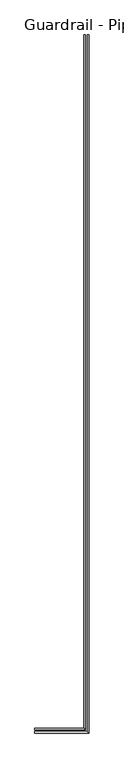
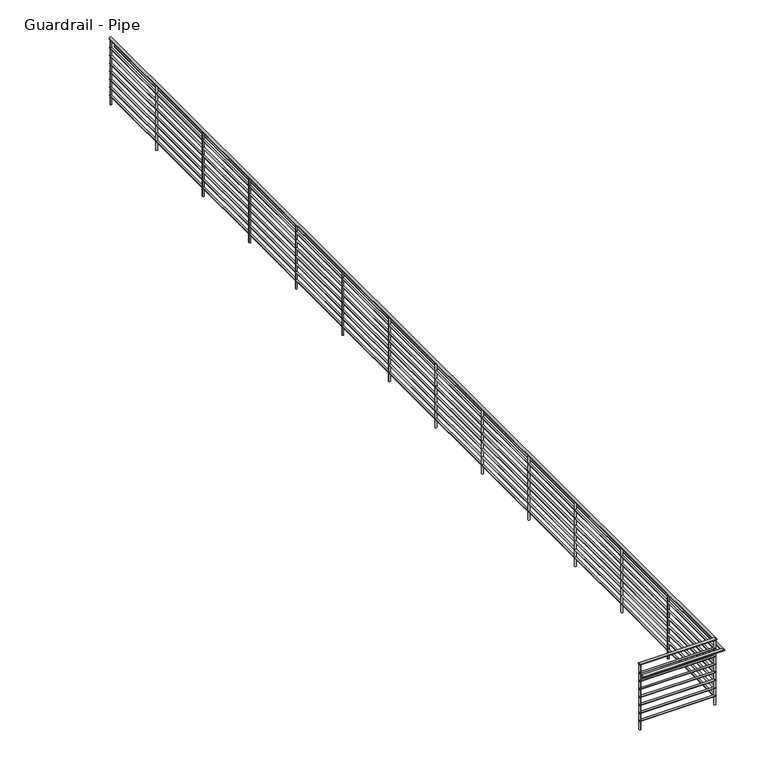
"""IFC4 building model written with IfcOpenShell, lengths in millimetres: railing geometry, Guardrail - Pipe."""

from ifc_helpers import new_model, si_unit, point, frame, frame_2d, origin, place, context, project, spatial, circle_curve, ellipse_curve, trimmed, segment, composite_curve, outline, extrude, source, transform, mapped, element, save
from ifc_brep_helpers import plane_surface, cylinder_surface, advanced_brep


def guardrail_pipe_0039a5d5(model_context):
    return source(origin(), model_context, "Body", "SolidModel", [
        advanced_brep(
        [(2892.6060388, 9152.359643, 8972.55), (2854.5060388, 9152.359643, 8972.55), (2892.6060388, -6703.590357, 8972.55), (2854.5060388, -6665.490357, 8972.55), (1730.5560388, -6703.590357, 8972.55), (1730.5560388, -6665.490357, 8972.55)],
        [
            (0, 1, circle_curve(frame((2873.5560388, 9152.359643, 8972.55), z_axis=(0.0, 1.0, 0.0), x_axis=(-1.0, 0.0, 0.0)), 19.05)),
            (1, 0, circle_curve(frame((2873.5560388, 9152.359643, 8972.55), z_axis=(0.0, 1.0, 0.0), x_axis=(-1.0, 0.0, 0.0)), 19.05)),
            (0, 2),
            (2, 3, ellipse_curve(frame((2873.5560388, -6684.540357, 8972.55), z_axis=(0.7071067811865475, 0.7071067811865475, 0.0), x_axis=(-0.7071067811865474, 0.7071067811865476, 0.0)), 26.9407684, 19.05)),
            (3, 1),
            (3, 2, ellipse_curve(frame((2873.5560388, -6684.540357, 8972.55), z_axis=(0.7071067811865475, 0.7071067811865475, 0.0), x_axis=(-0.7071067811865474, 0.7071067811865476, 0.0)), 26.9407684, 19.05)),
            (4, 5, circle_curve(frame((1730.5560388, -6684.540357, 8972.55), z_axis=(-1.0, 0.0, 0.0), x_axis=(0.0, 1.0, 0.0)), 19.05)),
            (5, 4, circle_curve(frame((1730.5560388, -6684.540357, 8972.55), z_axis=(-1.0, 0.0, 0.0), x_axis=(0.0, 1.0, 0.0)), 19.05)),
            (2, 4),
            (5, 3),
        ],
        [
            plane_surface(frame((2873.5560388, 9152.359643, 8991.6), z_axis=(0.0, 1.0, 0.0), x_axis=(0.0, 0.0, -1.0))),
            cylinder_surface(frame((2873.5560388, 9152.359643, 8972.55), z_axis=(0.0, 1.0, 0.0), x_axis=(-1.0, 0.0, 0.0)), 19.05),
            plane_surface(frame((1730.5560388, -6684.540357, 8991.6), z_axis=(-1.0, 0.0, 0.0), x_axis=(0.0, -1.0, 0.0))),
            cylinder_surface(frame((2873.5560388, -6684.540357, 8972.55), z_axis=(1.0, 0.0, 0.0), x_axis=(0.0, 1.0, 0.0)), 19.05),
        ],
        [
            (0, [[1, 2]]),
            (1, [[-1, 3, 4, 5]]),
            (1, [[-2, -5, 6, -3]]),
            (2, [[7, 8]]),
            (3, [[-4, 9, -8, 10]]),
            (3, [[-6, -10, -7, -9]]),
        ],
    ),
        advanced_brep(
        [(2886.2560388, 9152.359643, 8826.5), (2860.8560388, 9152.359643, 8826.5), (2886.2560388, -6697.240357, 8826.5), (2860.8560388, -6671.840357, 8826.5), (1730.5560388, -6697.240357, 8826.5), (1730.5560388, -6671.840357, 8826.5)],
        [
            (0, 1, circle_curve(frame((2873.5560388, 9152.359643, 8826.5), z_axis=(0.0, 1.0, 0.0), x_axis=(-1.0, 0.0, 0.0)), 12.7)),
            (1, 0, circle_curve(frame((2873.5560388, 9152.359643, 8826.5), z_axis=(0.0, 1.0, 0.0), x_axis=(-1.0, 0.0, 0.0)), 12.7)),
            (0, 2),
            (2, 3, ellipse_curve(frame((2873.5560388, -6684.540357, 8826.5), z_axis=(0.7071067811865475, 0.7071067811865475, 0.0), x_axis=(-0.7071067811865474, 0.7071067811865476, 0.0)), 17.9605122, 12.7)),
            (3, 1),
            (3, 2, ellipse_curve(frame((2873.5560388, -6684.540357, 8826.5), z_axis=(0.7071067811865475, 0.7071067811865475, 0.0), x_axis=(-0.7071067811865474, 0.7071067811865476, 0.0)), 17.9605122, 12.7)),
            (4, 5, circle_curve(frame((1730.5560388, -6684.540357, 8826.5), z_axis=(-1.0, 0.0, 0.0), x_axis=(0.0, 1.0, 0.0)), 12.7)),
            (5, 4, circle_curve(frame((1730.5560388, -6684.540357, 8826.5), z_axis=(-1.0, 0.0, 0.0), x_axis=(0.0, 1.0, 0.0)), 12.7)),
            (2, 4),
            (5, 3),
        ],
        [
            plane_surface(frame((2873.5560388, 9152.359643, 8839.2), z_axis=(0.0, 1.0, 0.0), x_axis=(0.0, 0.0, -1.0))),
            cylinder_surface(frame((2873.5560388, 9152.359643, 8826.5), z_axis=(0.0, 1.0, 0.0), x_axis=(-1.0, 0.0, 0.0)), 12.7),
            plane_surface(frame((1730.5560388, -6684.540357, 8839.2), z_axis=(-1.0, 0.0, 0.0), x_axis=(0.0, -1.0, 0.0))),
            cylinder_surface(frame((2873.5560388, -6684.540357, 8826.5), z_axis=(1.0, 0.0, 0.0), x_axis=(0.0, 1.0, 0.0)), 12.7),
        ],
        [
            (0, [[1, 2]]),
            (1, [[-1, 3, 4, 5]]),
            (1, [[-2, -5, 6, -3]]),
            (2, [[7, 8]]),
            (3, [[-4, 9, -8, 10]]),
            (3, [[-6, -10, -7, -9]]),
        ],
    ),
        advanced_brep(
        [(2968.8060388, 9152.359643, 8820.15), (2930.7060388, 9152.359643, 8820.15), (2968.8060388, -6779.790357, 8820.15), (2930.7060388, -6741.690357, 8820.15), (1730.5560388, -6779.790357, 8820.15), (1730.5560388, -6741.690357, 8820.15)],
        [
            (0, 1, circle_curve(frame((2949.7560388, 9152.359643, 8820.15), z_axis=(0.0, 1.0, 0.0), x_axis=(-1.0, 0.0, 0.0)), 19.05)),
            (1, 0, circle_curve(frame((2949.7560388, 9152.359643, 8820.15), z_axis=(0.0, 1.0, 0.0), x_axis=(-1.0, 0.0, 0.0)), 19.05)),
            (0, 2),
            (2, 3, ellipse_curve(frame((2949.7560388, -6760.740357, 8820.15), z_axis=(0.7071067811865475, 0.7071067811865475, 0.0), x_axis=(-0.7071067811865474, 0.7071067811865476, 0.0)), 26.9407684, 19.05)),
            (3, 1),
            (3, 2, ellipse_curve(frame((2949.7560388, -6760.740357, 8820.15), z_axis=(0.7071067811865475, 0.7071067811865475, 0.0), x_axis=(-0.7071067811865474, 0.7071067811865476, 0.0)), 26.9407684, 19.05)),
            (4, 5, circle_curve(frame((1730.5560388, -6760.740357, 8820.15), z_axis=(-1.0, 0.0, 0.0), x_axis=(0.0, 1.0, 0.0)), 19.05)),
            (5, 4, circle_curve(frame((1730.5560388, -6760.740357, 8820.15), z_axis=(-1.0, 0.0, 0.0), x_axis=(0.0, 1.0, 0.0)), 19.05)),
            (2, 4),
            (5, 3),
        ],
        [
            plane_surface(frame((2949.7560388, 9152.359643, 8839.2), z_axis=(0.0, 1.0, 0.0), x_axis=(0.0, 0.0, -1.0))),
            cylinder_surface(frame((2949.7560388, 9152.359643, 8820.15), z_axis=(0.0, 1.0, 0.0), x_axis=(-1.0, 0.0, 0.0)), 19.05),
            plane_surface(frame((1730.5560388, -6760.740357, 8839.2), z_axis=(-1.0, 0.0, 0.0), x_axis=(0.0, -1.0, 0.0))),
            cylinder_surface(frame((2949.7560388, -6760.740357, 8820.15), z_axis=(1.0, 0.0, 0.0), x_axis=(0.0, 1.0, 0.0)), 19.05),
        ],
        [
            (0, [[1, 2]]),
            (1, [[-1, 3, 4, 5]]),
            (1, [[-2, -5, 6, -3]]),
            (2, [[7, 8]]),
            (3, [[-4, 9, -8, 10]]),
            (3, [[-6, -10, -7, -9]]),
        ],
    ),
        advanced_brep(
        [(2886.2560388, 9152.359643, 8699.5), (2860.8560388, 9152.359643, 8699.5), (2886.2560388, -6697.240357, 8699.5), (2860.8560388, -6671.840357, 8699.5), (1730.5560388, -6697.240357, 8699.5), (1730.5560388, -6671.840357, 8699.5)],
        [
            (0, 1, circle_curve(frame((2873.5560388, 9152.359643, 8699.5), z_axis=(0.0, 1.0, 0.0), x_axis=(-1.0, 0.0, 0.0)), 12.7)),
            (1, 0, circle_curve(frame((2873.5560388, 9152.359643, 8699.5), z_axis=(0.0, 1.0, 0.0), x_axis=(-1.0, 0.0, 0.0)), 12.7)),
            (0, 2),
            (2, 3, ellipse_curve(frame((2873.5560388, -6684.540357, 8699.5), z_axis=(0.7071067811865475, 0.7071067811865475, 0.0), x_axis=(-0.7071067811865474, 0.7071067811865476, 0.0)), 17.9605122, 12.7)),
            (3, 1),
            (3, 2, ellipse_curve(frame((2873.5560388, -6684.540357, 8699.5), z_axis=(0.7071067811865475, 0.7071067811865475, 0.0), x_axis=(-0.7071067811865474, 0.7071067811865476, 0.0)), 17.9605122, 12.7)),
            (4, 5, circle_curve(frame((1730.5560388, -6684.540357, 8699.5), z_axis=(-1.0, 0.0, 0.0), x_axis=(0.0, 1.0, 0.0)), 12.7)),
            (5, 4, circle_curve(frame((1730.5560388, -6684.540357, 8699.5), z_axis=(-1.0, 0.0, 0.0), x_axis=(0.0, 1.0, 0.0)), 12.7)),
            (2, 4),
            (5, 3),
        ],
        [
            plane_surface(frame((2873.5560388, 9152.359643, 8712.2), z_axis=(0.0, 1.0, 0.0), x_axis=(0.0, 0.0, -1.0))),
            cylinder_surface(frame((2873.5560388, 9152.359643, 8699.5), z_axis=(0.0, 1.0, 0.0), x_axis=(-1.0, 0.0, 0.0)), 12.7),
            plane_surface(frame((1730.5560388, -6684.540357, 8712.2), z_axis=(-1.0, 0.0, 0.0), x_axis=(0.0, -1.0, 0.0))),
            cylinder_surface(frame((2873.5560388, -6684.540357, 8699.5), z_axis=(1.0, 0.0, 0.0), x_axis=(0.0, 1.0, 0.0)), 12.7),
        ],
        [
            (0, [[1, 2]]),
            (1, [[-1, 3, 4, 5]]),
            (1, [[-2, -5, 6, -3]]),
            (2, [[7, 8]]),
            (3, [[-4, 9, -8, 10]]),
            (3, [[-6, -10, -7, -9]]),
        ],
    ),
        advanced_brep(
        [(2886.2560388, 9152.359643, 8572.5), (2860.8560388, 9152.359643, 8572.5), (2886.2560388, -6697.240357, 8572.5), (2860.8560388, -6671.840357, 8572.5), (1730.5560388, -6697.240357, 8572.5), (1730.5560388, -6671.840357, 8572.5)],
        [
            (0, 1, circle_curve(frame((2873.5560388, 9152.359643, 8572.5), z_axis=(0.0, 1.0, 0.0), x_axis=(-1.0, 0.0, 0.0)), 12.7)),
            (1, 0, circle_curve(frame((2873.5560388, 9152.359643, 8572.5), z_axis=(0.0, 1.0, 0.0), x_axis=(-1.0, 0.0, 0.0)), 12.7)),
            (0, 2),
            (2, 3, ellipse_curve(frame((2873.5560388, -6684.540357, 8572.5), z_axis=(0.7071067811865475, 0.7071067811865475, 0.0), x_axis=(-0.7071067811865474, 0.7071067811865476, 0.0)), 17.9605122, 12.7)),
            (3, 1),
            (3, 2, ellipse_curve(frame((2873.5560388, -6684.540357, 8572.5), z_axis=(0.7071067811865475, 0.7071067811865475, 0.0), x_axis=(-0.7071067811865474, 0.7071067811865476, 0.0)), 17.9605122, 12.7)),
            (4, 5, circle_curve(frame((1730.5560388, -6684.540357, 8572.5), z_axis=(-1.0, 0.0, 0.0), x_axis=(0.0, 1.0, 0.0)), 12.7)),
            (5, 4, circle_curve(frame((1730.5560388, -6684.540357, 8572.5), z_axis=(-1.0, 0.0, 0.0), x_axis=(0.0, 1.0, 0.0)), 12.7)),
            (2, 4),
            (5, 3),
        ],
        [
            plane_surface(frame((2873.5560388, 9152.359643, 8585.2), z_axis=(0.0, 1.0, 0.0), x_axis=(0.0, 0.0, -1.0))),
            cylinder_surface(frame((2873.5560388, 9152.359643, 8572.5), z_axis=(0.0, 1.0, 0.0), x_axis=(-1.0, 0.0, 0.0)), 12.7),
            plane_surface(frame((1730.5560388, -6684.540357, 8585.2), z_axis=(-1.0, 0.0, 0.0), x_axis=(0.0, -1.0, 0.0))),
            cylinder_surface(frame((2873.5560388, -6684.540357, 8572.5), z_axis=(1.0, 0.0, 0.0), x_axis=(0.0, 1.0, 0.0)), 12.7),
        ],
        [
            (0, [[1, 2]]),
            (1, [[-1, 3, 4, 5]]),
            (1, [[-2, -5, 6, -3]]),
            (2, [[7, 8]]),
            (3, [[-4, 9, -8, 10]]),
            (3, [[-6, -10, -7, -9]]),
        ],
    ),
        advanced_brep(
        [(2886.2560388, 9152.359643, 8445.5), (2860.8560388, 9152.359643, 8445.5), (2886.2560388, -6697.240357, 8445.5), (2860.8560388, -6671.840357, 8445.5), (1730.5560388, -6697.240357, 8445.5), (1730.5560388, -6671.840357, 8445.5)],
        [
            (0, 1, circle_curve(frame((2873.5560388, 9152.359643, 8445.5), z_axis=(0.0, 1.0, 0.0), x_axis=(-1.0, 0.0, 0.0)), 12.7)),
            (1, 0, circle_curve(frame((2873.5560388, 9152.359643, 8445.5), z_axis=(0.0, 1.0, 0.0), x_axis=(-1.0, 0.0, 0.0)), 12.7)),
            (0, 2),
            (2, 3, ellipse_curve(frame((2873.5560388, -6684.540357, 8445.5), z_axis=(0.7071067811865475, 0.7071067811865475, 0.0), x_axis=(-0.7071067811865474, 0.7071067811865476, 0.0)), 17.9605122, 12.7)),
            (3, 1),
            (3, 2, ellipse_curve(frame((2873.5560388, -6684.540357, 8445.5), z_axis=(0.7071067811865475, 0.7071067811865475, 0.0), x_axis=(-0.7071067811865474, 0.7071067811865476, 0.0)), 17.9605122, 12.7)),
            (4, 5, circle_curve(frame((1730.5560388, -6684.540357, 8445.5), z_axis=(-1.0, 0.0, 0.0), x_axis=(0.0, 1.0, 0.0)), 12.7)),
            (5, 4, circle_curve(frame((1730.5560388, -6684.540357, 8445.5), z_axis=(-1.0, 0.0, 0.0), x_axis=(0.0, 1.0, 0.0)), 12.7)),
            (2, 4),
            (5, 3),
        ],
        [
            plane_surface(frame((2873.5560388, 9152.359643, 8458.2), z_axis=(0.0, 1.0, 0.0), x_axis=(0.0, 0.0, -1.0))),
            cylinder_surface(frame((2873.5560388, 9152.359643, 8445.5), z_axis=(0.0, 1.0, 0.0), x_axis=(-1.0, 0.0, 0.0)), 12.7),
            plane_surface(frame((1730.5560388, -6684.540357, 8458.2), z_axis=(-1.0, 0.0, 0.0), x_axis=(0.0, -1.0, 0.0))),
            cylinder_surface(frame((2873.5560388, -6684.540357, 8445.5), z_axis=(1.0, 0.0, 0.0), x_axis=(0.0, 1.0, 0.0)), 12.7),
        ],
        [
            (0, [[1, 2]]),
            (1, [[-1, 3, 4, 5]]),
            (1, [[-2, -5, 6, -3]]),
            (2, [[7, 8]]),
            (3, [[-4, 9, -8, 10]]),
            (3, [[-6, -10, -7, -9]]),
        ],
    ),
        advanced_brep(
        [(2886.2560388, 9152.359643, 8318.5), (2860.8560388, 9152.359643, 8318.5), (2886.2560388, -6697.240357, 8318.5), (2860.8560388, -6671.840357, 8318.5), (1730.5560388, -6697.240357, 8318.5), (1730.5560388, -6671.840357, 8318.5)],
        [
            (0, 1, circle_curve(frame((2873.5560388, 9152.359643, 8318.5), z_axis=(0.0, 1.0, 0.0), x_axis=(-1.0, 0.0, 0.0)), 12.7)),
            (1, 0, circle_curve(frame((2873.5560388, 9152.359643, 8318.5), z_axis=(0.0, 1.0, 0.0), x_axis=(-1.0, 0.0, 0.0)), 12.7)),
            (0, 2),
            (2, 3, ellipse_curve(frame((2873.5560388, -6684.540357, 8318.5), z_axis=(0.7071067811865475, 0.7071067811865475, 0.0), x_axis=(-0.7071067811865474, 0.7071067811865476, 0.0)), 17.9605122, 12.7)),
            (3, 1),
            (3, 2, ellipse_curve(frame((2873.5560388, -6684.540357, 8318.5), z_axis=(0.7071067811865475, 0.7071067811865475, 0.0), x_axis=(-0.7071067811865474, 0.7071067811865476, 0.0)), 17.9605122, 12.7)),
            (4, 5, circle_curve(frame((1730.5560388, -6684.540357, 8318.5), z_axis=(-1.0, 0.0, 0.0), x_axis=(0.0, 1.0, 0.0)), 12.7)),
            (5, 4, circle_curve(frame((1730.5560388, -6684.540357, 8318.5), z_axis=(-1.0, 0.0, 0.0), x_axis=(0.0, 1.0, 0.0)), 12.7)),
            (2, 4),
            (5, 3),
        ],
        [
            plane_surface(frame((2873.5560388, 9152.359643, 8331.2), z_axis=(0.0, 1.0, 0.0), x_axis=(0.0, 0.0, -1.0))),
            cylinder_surface(frame((2873.5560388, 9152.359643, 8318.5), z_axis=(0.0, 1.0, 0.0), x_axis=(-1.0, 0.0, 0.0)), 12.7),
            plane_surface(frame((1730.5560388, -6684.540357, 8331.2), z_axis=(-1.0, 0.0, 0.0), x_axis=(0.0, -1.0, 0.0))),
            cylinder_surface(frame((2873.5560388, -6684.540357, 8318.5), z_axis=(1.0, 0.0, 0.0), x_axis=(0.0, 1.0, 0.0)), 12.7),
        ],
        [
            (0, [[1, 2]]),
            (1, [[-1, 3, 4, 5]]),
            (1, [[-2, -5, 6, -3]]),
            (2, [[7, 8]]),
            (3, [[-4, 9, -8, 10]]),
            (3, [[-6, -10, -7, -9]]),
        ],
    ),
        advanced_brep(
        [(2886.2560388, 9152.359643, 8191.5), (2860.8560388, 9152.359643, 8191.5), (2886.2560388, -6697.240357, 8191.5), (2860.8560388, -6671.840357, 8191.5), (1730.5560388, -6697.240357, 8191.5), (1730.5560388, -6671.840357, 8191.5)],
        [
            (0, 1, circle_curve(frame((2873.5560388, 9152.359643, 8191.5), z_axis=(0.0, 1.0, 0.0), x_axis=(-1.0, 0.0, 0.0)), 12.7)),
            (1, 0, circle_curve(frame((2873.5560388, 9152.359643, 8191.5), z_axis=(0.0, 1.0, 0.0), x_axis=(-1.0, 0.0, 0.0)), 12.7)),
            (0, 2),
            (2, 3, ellipse_curve(frame((2873.5560388, -6684.540357, 8191.5), z_axis=(0.7071067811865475, 0.7071067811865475, 0.0), x_axis=(-0.7071067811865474, 0.7071067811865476, 0.0)), 17.9605122, 12.7)),
            (3, 1),
            (3, 2, ellipse_curve(frame((2873.5560388, -6684.540357, 8191.5), z_axis=(0.7071067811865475, 0.7071067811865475, 0.0), x_axis=(-0.7071067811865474, 0.7071067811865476, 0.0)), 17.9605122, 12.7)),
            (4, 5, circle_curve(frame((1730.5560388, -6684.540357, 8191.5), z_axis=(-1.0, 0.0, 0.0), x_axis=(0.0, 1.0, 0.0)), 12.7)),
            (5, 4, circle_curve(frame((1730.5560388, -6684.540357, 8191.5), z_axis=(-1.0, 0.0, 0.0), x_axis=(0.0, 1.0, 0.0)), 12.7)),
            (2, 4),
            (5, 3),
        ],
        [
            plane_surface(frame((2873.5560388, 9152.359643, 8204.2), z_axis=(0.0, 1.0, 0.0), x_axis=(0.0, 0.0, -1.0))),
            cylinder_surface(frame((2873.5560388, 9152.359643, 8191.5), z_axis=(0.0, 1.0, 0.0), x_axis=(-1.0, 0.0, 0.0)), 12.7),
            plane_surface(frame((1730.5560388, -6684.540357, 8204.2), z_axis=(-1.0, 0.0, 0.0), x_axis=(0.0, -1.0, 0.0))),
            cylinder_surface(frame((2873.5560388, -6684.540357, 8191.5), z_axis=(1.0, 0.0, 0.0), x_axis=(0.0, 1.0, 0.0)), 12.7),
        ],
        [
            (0, [[1, 2]]),
            (1, [[-1, 3, 4, 5]]),
            (1, [[-2, -5, 6, -3]]),
            (2, [[7, 8]]),
            (3, [[-4, 9, -8, 10]]),
            (3, [[-6, -10, -7, -9]]),
        ],
    ),
        advanced_brep(
        [(2886.2560388, 9152.359643, 8064.5), (2860.8560388, 9152.359643, 8064.5), (2886.2560388, -6697.240357, 8064.5), (2860.8560388, -6671.840357, 8064.5), (1730.5560388, -6697.240357, 8064.5), (1730.5560388, -6671.840357, 8064.5)],
        [
            (0, 1, circle_curve(frame((2873.5560388, 9152.359643, 8064.5), z_axis=(0.0, 1.0, 0.0), x_axis=(-1.0, 0.0, 0.0)), 12.7)),
            (1, 0, circle_curve(frame((2873.5560388, 9152.359643, 8064.5), z_axis=(0.0, 1.0, 0.0), x_axis=(-1.0, 0.0, 0.0)), 12.7)),
            (0, 2),
            (2, 3, ellipse_curve(frame((2873.5560388, -6684.540357, 8064.5), z_axis=(0.7071067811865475, 0.7071067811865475, 0.0), x_axis=(-0.7071067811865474, 0.7071067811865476, 0.0)), 17.9605122, 12.7)),
            (3, 1),
            (3, 2, ellipse_curve(frame((2873.5560388, -6684.540357, 8064.5), z_axis=(0.7071067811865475, 0.7071067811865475, 0.0), x_axis=(-0.7071067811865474, 0.7071067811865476, 0.0)), 17.9605122, 12.7)),
            (4, 5, circle_curve(frame((1730.5560388, -6684.540357, 8064.5), z_axis=(-1.0, 0.0, 0.0), x_axis=(0.0, 1.0, 0.0)), 12.7)),
            (5, 4, circle_curve(frame((1730.5560388, -6684.540357, 8064.5), z_axis=(-1.0, 0.0, 0.0), x_axis=(0.0, 1.0, 0.0)), 12.7)),
            (2, 4),
            (5, 3),
        ],
        [
            plane_surface(frame((2873.5560388, 9152.359643, 8077.2), z_axis=(0.0, 1.0, 0.0), x_axis=(0.0, 0.0, -1.0))),
            cylinder_surface(frame((2873.5560388, 9152.359643, 8064.5), z_axis=(0.0, 1.0, 0.0), x_axis=(-1.0, 0.0, 0.0)), 12.7),
            plane_surface(frame((1730.5560388, -6684.540357, 8077.2), z_axis=(-1.0, 0.0, 0.0), x_axis=(0.0, -1.0, 0.0))),
            cylinder_surface(frame((2873.5560388, -6684.540357, 8064.5), z_axis=(1.0, 0.0, 0.0), x_axis=(0.0, 1.0, 0.0)), 12.7),
        ],
        [
            (0, [[1, 2]]),
            (1, [[-1, 3, 4, 5]]),
            (1, [[-2, -5, 6, -3]]),
            (2, [[7, 8]]),
            (3, [[-4, 9, -8, 10]]),
            (3, [[-6, -10, -7, -9]]),
        ],
    ),
        extrude(outline(composite_curve([segment(trimmed(circle_curve(frame_2d((2873.5560388, -5471.690357)), 12.7), [point((2860.8560388, -5471.690357))], [point((2886.2560388, -5471.690357))], False, "CARTESIAN"), True, "CONTINUOUS"), segment(trimmed(circle_curve(frame_2d((2873.5560388, -5471.690357)), 12.7), [point((2886.2560388, -5471.690357))], [point((2860.8560388, -5471.690357))], False, "CARTESIAN"), True, "CONTINUOUS")], self_intersect=False)), frame((0.0, 0.0, 7924.8), z_axis=(0.0, 0.0, 1.0), x_axis=(1.0, 0.0, 0.0)), (0.0, 0.0, 1.0), 1028.7),
        extrude(outline(composite_curve([segment(trimmed(circle_curve(frame_2d((2873.5560388, -4252.490357)), 12.7), [point((2860.8560388, -4252.490357))], [point((2886.2560388, -4252.490357))], False, "CARTESIAN"), True, "CONTINUOUS"), segment(trimmed(circle_curve(frame_2d((2873.5560388, -4252.490357)), 12.7), [point((2886.2560388, -4252.490357))], [point((2860.8560388, -4252.490357))], False, "CARTESIAN"), True, "CONTINUOUS")], self_intersect=False)), frame((0.0, 0.0, 7924.8), z_axis=(0.0, 0.0, 1.0), x_axis=(1.0, 0.0, 0.0)), (0.0, 0.0, 1.0), 1028.7),
        extrude(outline(composite_curve([segment(trimmed(circle_curve(frame_2d((2873.5560388, -3033.290357)), 12.7), [point((2860.8560388, -3033.290357))], [point((2886.2560388, -3033.290357))], False, "CARTESIAN"), True, "CONTINUOUS"), segment(trimmed(circle_curve(frame_2d((2873.5560388, -3033.290357)), 12.7), [point((2886.2560388, -3033.290357))], [point((2860.8560388, -3033.290357))], False, "CARTESIAN"), True, "CONTINUOUS")], self_intersect=False)), frame((0.0, 0.0, 7924.8), z_axis=(0.0, 0.0, 1.0), x_axis=(1.0, 0.0, 0.0)), (0.0, 0.0, 1.0), 1028.7),
        extrude(outline(composite_curve([segment(trimmed(circle_curve(frame_2d((2873.5560388, -1814.090357)), 12.7), [point((2860.8560388, -1814.090357))], [point((2886.2560388, -1814.090357))], False, "CARTESIAN"), True, "CONTINUOUS"), segment(trimmed(circle_curve(frame_2d((2873.5560388, -1814.090357)), 12.7), [point((2886.2560388, -1814.090357))], [point((2860.8560388, -1814.090357))], False, "CARTESIAN"), True, "CONTINUOUS")], self_intersect=False)), frame((0.0, 0.0, 7924.8), z_axis=(0.0, 0.0, 1.0), x_axis=(1.0, 0.0, 0.0)), (0.0, 0.0, 1.0), 1028.7),
        extrude(outline(composite_curve([segment(trimmed(circle_curve(frame_2d((2873.5560388, -594.890357)), 12.7), [point((2860.8560388, -594.890357))], [point((2886.2560388, -594.890357))], False, "CARTESIAN"), True, "CONTINUOUS"), segment(trimmed(circle_curve(frame_2d((2873.5560388, -594.890357)), 12.7), [point((2886.2560388, -594.890357))], [point((2860.8560388, -594.890357))], False, "CARTESIAN"), True, "CONTINUOUS")], self_intersect=False)), frame((0.0, 0.0, 7924.8), z_axis=(0.0, 0.0, 1.0), x_axis=(1.0, 0.0, 0.0)), (0.0, 0.0, 1.0), 1028.7),
        extrude(outline(composite_curve([segment(trimmed(circle_curve(frame_2d((2873.5560388, 624.309643)), 12.7), [point((2860.8560388, 624.309643))], [point((2886.2560388, 624.309643))], False, "CARTESIAN"), True, "CONTINUOUS"), segment(trimmed(circle_curve(frame_2d((2873.5560388, 624.309643)), 12.7), [point((2886.2560388, 624.309643))], [point((2860.8560388, 624.309643))], False, "CARTESIAN"), True, "CONTINUOUS")], self_intersect=False)), frame((0.0, 0.0, 7924.8), z_axis=(0.0, 0.0, 1.0), x_axis=(1.0, 0.0, 0.0)), (0.0, 0.0, 1.0), 1028.7),
        extrude(outline(composite_curve([segment(trimmed(circle_curve(frame_2d((2873.5560388, 1843.509643)), 12.7), [point((2860.8560388, 1843.509643))], [point((2886.2560388, 1843.509643))], False, "CARTESIAN"), True, "CONTINUOUS"), segment(trimmed(circle_curve(frame_2d((2873.5560388, 1843.509643)), 12.7), [point((2886.2560388, 1843.509643))], [point((2860.8560388, 1843.509643))], False, "CARTESIAN"), True, "CONTINUOUS")], self_intersect=False)), frame((0.0, 0.0, 7924.8), z_axis=(0.0, 0.0, 1.0), x_axis=(1.0, 0.0, 0.0)), (0.0, 0.0, 1.0), 1028.7),
        extrude(outline(composite_curve([segment(trimmed(circle_curve(frame_2d((2873.5560388, 3062.709643)), 12.7), [point((2860.8560388, 3062.709643))], [point((2886.2560388, 3062.709643))], False, "CARTESIAN"), True, "CONTINUOUS"), segment(trimmed(circle_curve(frame_2d((2873.5560388, 3062.709643)), 12.7), [point((2886.2560388, 3062.709643))], [point((2860.8560388, 3062.709643))], False, "CARTESIAN"), True, "CONTINUOUS")], self_intersect=False)), frame((0.0, 0.0, 7924.8), z_axis=(0.0, 0.0, 1.0), x_axis=(1.0, 0.0, 0.0)), (0.0, 0.0, 1.0), 1028.7),
        extrude(outline(composite_curve([segment(trimmed(circle_curve(frame_2d((2873.5560388, 4281.909643)), 12.7), [point((2860.8560388, 4281.909643))], [point((2886.2560388, 4281.909643))], False, "CARTESIAN"), True, "CONTINUOUS"), segment(trimmed(circle_curve(frame_2d((2873.5560388, 4281.909643)), 12.7), [point((2886.2560388, 4281.909643))], [point((2860.8560388, 4281.909643))], False, "CARTESIAN"), True, "CONTINUOUS")], self_intersect=False)), frame((0.0, 0.0, 7924.8), z_axis=(0.0, 0.0, 1.0), x_axis=(1.0, 0.0, 0.0)), (0.0, 0.0, 1.0), 1028.7),
        extrude(outline(composite_curve([segment(trimmed(circle_curve(frame_2d((2873.5560388, 5501.109643)), 12.7), [point((2860.8560388, 5501.109643))], [point((2886.2560388, 5501.109643))], False, "CARTESIAN"), True, "CONTINUOUS"), segment(trimmed(circle_curve(frame_2d((2873.5560388, 5501.109643)), 12.7), [point((2886.2560388, 5501.109643))], [point((2860.8560388, 5501.109643))], False, "CARTESIAN"), True, "CONTINUOUS")], self_intersect=False)), frame((0.0, 0.0, 7924.8), z_axis=(0.0, 0.0, 1.0), x_axis=(1.0, 0.0, 0.0)), (0.0, 0.0, 1.0), 1028.7),
        extrude(outline(composite_curve([segment(trimmed(circle_curve(frame_2d((2873.5560388, 6720.309643)), 12.7), [point((2860.8560388, 6720.309643))], [point((2886.2560388, 6720.309643))], False, "CARTESIAN"), True, "CONTINUOUS"), segment(trimmed(circle_curve(frame_2d((2873.5560388, 6720.309643)), 12.7), [point((2886.2560388, 6720.309643))], [point((2860.8560388, 6720.309643))], False, "CARTESIAN"), True, "CONTINUOUS")], self_intersect=False)), frame((0.0, 0.0, 7924.8), z_axis=(0.0, 0.0, 1.0), x_axis=(1.0, 0.0, 0.0)), (0.0, 0.0, 1.0), 1028.7),
        extrude(outline(composite_curve([segment(trimmed(circle_curve(frame_2d((2873.5560388, 7939.509643)), 12.7), [point((2860.8560388, 7939.509643))], [point((2886.2560388, 7939.509643))], False, "CARTESIAN"), True, "CONTINUOUS"), segment(trimmed(circle_curve(frame_2d((2873.5560388, 7939.509643)), 12.7), [point((2886.2560388, 7939.509643))], [point((2860.8560388, 7939.509643))], False, "CARTESIAN"), True, "CONTINUOUS")], self_intersect=False)), frame((0.0, 0.0, 7924.8), z_axis=(0.0, 0.0, 1.0), x_axis=(1.0, 0.0, 0.0)), (0.0, 0.0, 1.0), 1028.7),
        extrude(outline(composite_curve([segment(trimmed(circle_curve(frame_2d((2873.5560388, -6684.540357)), 12.7), [point((2860.8560388, -6684.540357))], [point((2886.2560388, -6684.540357))], False, "CARTESIAN"), True, "CONTINUOUS"), segment(trimmed(circle_curve(frame_2d((2873.5560388, -6684.540357)), 12.7), [point((2886.2560388, -6684.540357))], [point((2860.8560388, -6684.540357))], False, "CARTESIAN"), True, "CONTINUOUS")], self_intersect=False)), frame((0.0, 0.0, 7924.8), z_axis=(0.0, 0.0, 1.0), x_axis=(1.0, 0.0, 0.0)), (0.0, 0.0, 1.0), 1028.7),
        extrude(outline(composite_curve([segment(trimmed(circle_curve(frame_2d((1742.9376233, -6684.540357)), 12.7), [point((1742.9376233, -6671.840357))], [point((1742.9376233, -6697.240357))], False, "CARTESIAN"), True, "CONTINUOUS"), segment(trimmed(circle_curve(frame_2d((1742.9376233, -6684.540357)), 12.7), [point((1742.9376233, -6697.240357))], [point((1742.9376233, -6671.840357))], False, "CARTESIAN"), True, "CONTINUOUS")], self_intersect=False)), frame((0.0, 0.0, 7924.8), z_axis=(0.0, 0.0, 1.0), x_axis=(1.0, 0.0, 0.0)), (0.0, 0.0, 1.0), 1028.7),
        extrude(outline(composite_curve([segment(trimmed(circle_curve(frame_2d((2873.5560388, 9139.9780585)), 12.7), [point((2860.8560388, 9139.9780585))], [point((2886.2560388, 9139.9780585))], False, "CARTESIAN"), True, "CONTINUOUS"), segment(trimmed(circle_curve(frame_2d((2873.5560388, 9139.9780585)), 12.7), [point((2886.2560388, 9139.9780585))], [point((2860.8560388, 9139.9780585))], False, "CARTESIAN"), True, "CONTINUOUS")], self_intersect=False)), frame((0.0, 0.0, 7924.8), z_axis=(0.0, 0.0, 1.0), x_axis=(1.0, 0.0, 0.0)), (0.0, 0.0, 1.0), 1028.7),
    ])


if __name__ == "__main__":
    model = new_model("IFC4")
    model_context = context("Model", 3, world=origin())
    ifc_project = project(units=[si_unit("LENGTHUNIT", "METRE", prefix="MILLI")], contexts=[model_context])
    site = spatial("IfcSite", under=ifc_project)
    building = spatial("IfcBuilding", under=site)
    placement = place(None, origin())
    guardrail_pipe_shape = guardrail_pipe_0039a5d5(model_context)
    element("IfcRailing", 1, ObjectType="Guardrail - Pipe", at=placement, inside=building, context=model_context, shape_type="MappedRepresentation", body=[
        mapped(guardrail_pipe_shape, transform((0.0, 0.0, 0.0), x_axis=(1.0, 0.0, 0.0), y_axis=(0.0, 1.0, 0.0), z_axis=(0.0, 0.0, 1.0))),
    ])
    save(model, "model.ifc")
